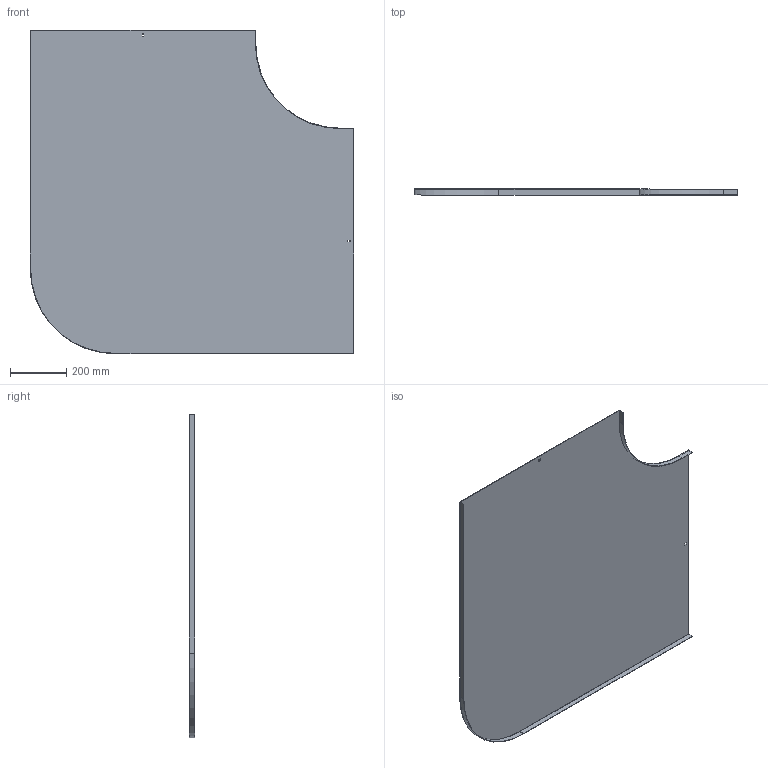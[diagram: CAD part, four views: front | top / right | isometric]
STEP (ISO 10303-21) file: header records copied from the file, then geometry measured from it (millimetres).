
FILE_DESCRIPTION (( 'STEP AP214' ), '1' );
FILE_NAME ('B2_10N3R800.step', '2025-02-21T10:54:39', ( '' ), ( '' ), 'SwSTEP 2.0', 'SolidWorks 2023', '' );
FILE_SCHEMA (( 'AUTOMOTIVE_DESIGN' ));
Length unit declared in the file: millimetre
Products named in the file (1): B2_10N3R800
Bounding box: 1151.5 x 20 x 1151.5 mm (x, y, z)
Volume: 1882098.8 mm3; surface area: 2516191.8 mm2
Topology: 1 solids, 1 shells, 26 faces, 72 edges, 48 vertices
Faces by surface type: plane 22, cylinder 4
Entity records: 855 total; most frequent: CARTESIAN_POINT 147, ORIENTED_EDGE 144, DIRECTION 134, EDGE_CURVE 72, VECTOR 64, LINE 64, VERTEX_POINT 48, AXIS2_PLACEMENT_3D 35
